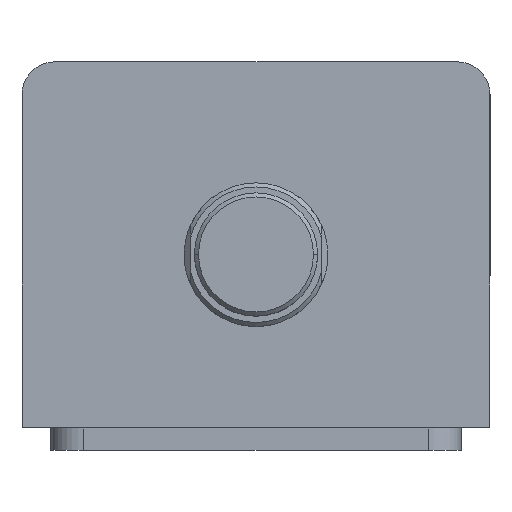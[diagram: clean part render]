
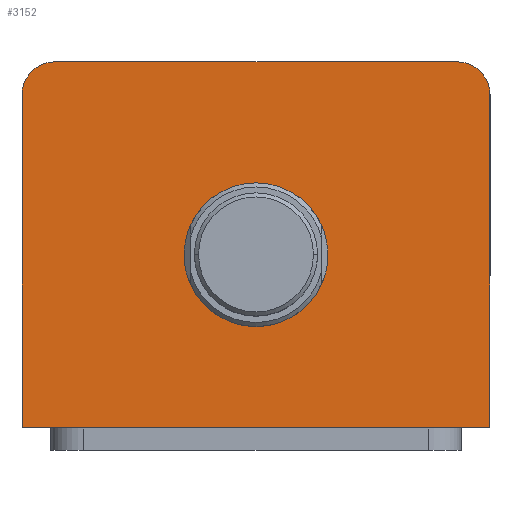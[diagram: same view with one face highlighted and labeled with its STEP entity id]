
A CAD part, top view. The second image highlights one B-rep face of the part: STEP entity #3152.
In plain terms, the highlighted planar face has unit normal (0, 0, 1).
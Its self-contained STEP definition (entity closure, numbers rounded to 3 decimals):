
#292 = VECTOR ( 'NONE', #821, 1000. ) ;
#296 = LINE ( 'NONE', #822, #292 ) ;
#306 = FACE_BOUND ( 'NONE', #2610, .T. ) ;
#324 = FACE_OUTER_BOUND ( 'NONE', #2607, .T. ) ;
#656 = CIRCLE ( 'NONE', #705, 8. ) ;
#705 = AXIS2_PLACEMENT_3D ( 'NONE', #785, #784, #783 ) ;
#740 = DIRECTION ( 'NONE',  ( 0., -1., 0. ) ) ;
#741 = CARTESIAN_POINT ( 'NONE',  ( -57., 44.5, 107. ) ) ;
#753 = DIRECTION ( 'NONE',  ( 1., 0., 0. ) ) ;
#754 = DIRECTION ( 'NONE',  ( 0., 0., 1. ) ) ;
#755 = CARTESIAN_POINT ( 'NONE',  ( -49., 36.5, 107. ) ) ;
#783 = DIRECTION ( 'NONE',  ( 1., 0., 0. ) ) ;
#784 = DIRECTION ( 'NONE',  ( 0., 0., 1. ) ) ;
#785 = CARTESIAN_POINT ( 'NONE',  ( 49., 36.5, 107. ) ) ;
#821 = DIRECTION ( 'NONE',  ( -1., 0., 0. ) ) ;
#822 = CARTESIAN_POINT ( 'NONE',  ( -57., 44.5, 107. ) ) ;
#885 = DIRECTION ( 'NONE',  ( 0., 1., 0. ) ) ;
#886 = CARTESIAN_POINT ( 'NONE',  ( 57., 44.5, 107. ) ) ;
#946 = EDGE_CURVE ( 'NONE', #1926, #1937, #2734, .T. ) ;
#949 = EDGE_CURVE ( 'NONE', #1937, #1926, #2742, .T. ) ;
#983 = DIRECTION ( 'NONE',  ( 0., 0., 1. ) ) ;
#984 = CARTESIAN_POINT ( 'NONE',  ( 0., -2.5, 107. ) ) ;
#989 = DIRECTION ( 'NONE',  ( 1., 0., 0. ) ) ;
#1000 = DIRECTION ( 'NONE',  ( 1., 0., 0. ) ) ;
#1001 = CARTESIAN_POINT ( 'NONE',  ( 0., -2.5, 107. ) ) ;
#1010 = DIRECTION ( 'NONE',  ( 0., 0., 1. ) ) ;
#1249 = AXIS2_PLACEMENT_3D ( 'NONE', #984, #983, #989 ) ;
#1251 = AXIS2_PLACEMENT_3D ( 'NONE', #1001, #1010, #1000 ) ;
#1690 = DIRECTION ( 'NONE',  ( 1., 0., 0. ) ) ;
#1691 = DIRECTION ( 'NONE',  ( 0., 0., 1. ) ) ;
#1693 = PLANE ( 'NONE',  #2823 ) ;
#1697 = CARTESIAN_POINT ( 'NONE',  ( 0., 0., 107. ) ) ;
#1761 = EDGE_CURVE ( 'NONE', #1935, #1970, #2284, .T. ) ;
#1809 = EDGE_CURVE ( 'NONE', #1982, #1985, #296, .T. ) ;
#1822 = EDGE_CURVE ( 'NONE', #1970, #1982, #656, .T. ) ;
#1831 = EDGE_CURVE ( 'NONE', #1985, #1994, #2182, .T. ) ;
#1845 = EDGE_CURVE ( 'NONE', #1994, #2053, #2183, .T. ) ;
#1847 = VECTOR ( 'NONE', #3115, 1000. ) ;
#1850 = LINE ( 'NONE', #3116, #1847 ) ;
#1926 = VERTEX_POINT ( 'NONE', #3321 ) ;
#1935 = VERTEX_POINT ( 'NONE', #3274 ) ;
#1937 = VERTEX_POINT ( 'NONE', #3267 ) ;
#1970 = VERTEX_POINT ( 'NONE', #3133 ) ;
#1982 = VERTEX_POINT ( 'NONE', #3099 ) ;
#1985 = VERTEX_POINT ( 'NONE', #3088 ) ;
#1994 = VERTEX_POINT ( 'NONE', #3072 ) ;
#2053 = VERTEX_POINT ( 'NONE', #3328 ) ;
#2103 = EDGE_CURVE ( 'NONE', #2053, #1935, #1850, .T. ) ;
#2135 = AXIS2_PLACEMENT_3D ( 'NONE', #755, #754, #753 ) ;
#2181 = VECTOR ( 'NONE', #740, 1000. ) ;
#2182 = CIRCLE ( 'NONE', #2135, 8. ) ;
#2183 = LINE ( 'NONE', #741, #2181 ) ;
#2284 = LINE ( 'NONE', #886, #2287 ) ;
#2287 = VECTOR ( 'NONE', #885, 1000. ) ;
#2334 = ORIENTED_EDGE ( 'NONE', *, *, #2103, .T. ) ;
#2335 = ORIENTED_EDGE ( 'NONE', *, *, #1761, .T. ) ;
#2336 = ORIENTED_EDGE ( 'NONE', *, *, #1822, .T. ) ;
#2338 = ORIENTED_EDGE ( 'NONE', *, *, #949, .F. ) ;
#2339 = ORIENTED_EDGE ( 'NONE', *, *, #1809, .T. ) ;
#2340 = ORIENTED_EDGE ( 'NONE', *, *, #1831, .T. ) ;
#2341 = ORIENTED_EDGE ( 'NONE', *, *, #1845, .T. ) ;
#2343 = ORIENTED_EDGE ( 'NONE', *, *, #946, .F. ) ;
#2607 = EDGE_LOOP ( 'NONE', ( #2339, #2340, #2341, #2334, #2335, #2336 ) ) ;
#2610 = EDGE_LOOP ( 'NONE', ( #2343, #2338 ) ) ;
#2734 = CIRCLE ( 'NONE', #1251, 17.5 ) ;
#2742 = CIRCLE ( 'NONE', #1249, 17.5 ) ;
#2823 = AXIS2_PLACEMENT_3D ( 'NONE', #1697, #1691, #1690 ) ;
#3072 = CARTESIAN_POINT ( 'NONE',  ( -57., 36.5, 107. ) ) ;
#3088 = CARTESIAN_POINT ( 'NONE',  ( -49., 44.5, 107. ) ) ;
#3099 = CARTESIAN_POINT ( 'NONE',  ( 49., 44.5, 107. ) ) ;
#3115 = DIRECTION ( 'NONE',  ( 1., 0., 0. ) ) ;
#3116 = CARTESIAN_POINT ( 'NONE',  ( -57., -44.5, 107. ) ) ;
#3133 = CARTESIAN_POINT ( 'NONE',  ( 57., 36.5, 107. ) ) ;
#3152 = ADVANCED_FACE ( 'NONE', ( #306, #324 ), #1693, .T. ) ;
#3267 = CARTESIAN_POINT ( 'NONE',  ( -17.5, -2.5, 107. ) ) ;
#3274 = CARTESIAN_POINT ( 'NONE',  ( 57., -44.5, 107. ) ) ;
#3321 = CARTESIAN_POINT ( 'NONE',  ( 17.5, -2.5, 107. ) ) ;
#3328 = CARTESIAN_POINT ( 'NONE',  ( -57., -44.5, 107. ) ) ;
